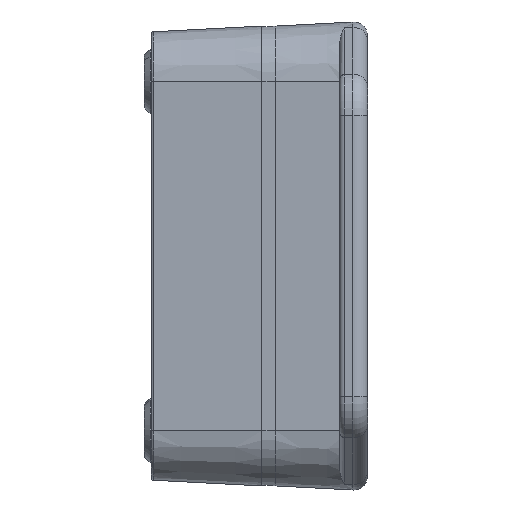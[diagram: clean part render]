
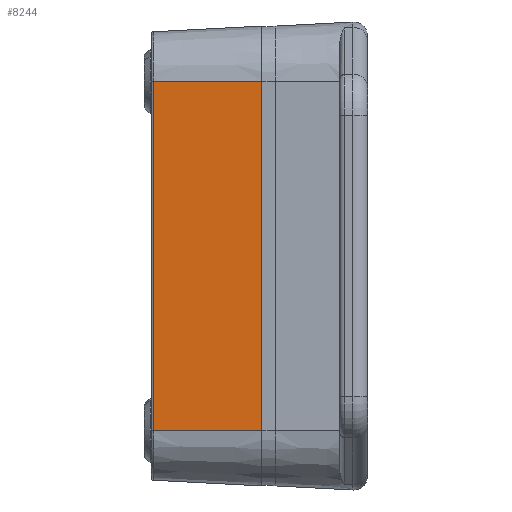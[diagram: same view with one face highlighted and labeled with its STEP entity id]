
A CAD part, left-side view. The second image highlights one B-rep face of the part: STEP entity #8244.
In plain terms, the highlighted planar face has unit normal (-0.999, 0.052, 0).
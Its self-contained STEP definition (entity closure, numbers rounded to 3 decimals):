
#350 = ORIENTED_EDGE ( 'NONE', *, *, #8868, .T. ) ;
#482 = DIRECTION ( 'NONE',  ( 0., 0., 1. ) ) ;
#606 = CARTESIAN_POINT ( 'NONE',  ( -37.5, 0., 19. ) ) ;
#862 = VECTOR ( 'NONE', #482, 1000. ) ;
#1655 = EDGE_CURVE ( 'NONE', #7345, #4840, #2425, .T. ) ;
#2166 = ORIENTED_EDGE ( 'NONE', *, *, #1655, .T. ) ;
#2425 = LINE ( 'NONE', #5408, #4910 ) ;
#2447 = AXIS2_PLACEMENT_3D ( 'NONE', #7250, #11378, #8340 ) ;
#2613 = FACE_OUTER_BOUND ( 'NONE', #10519, .T. ) ;
#2861 = CARTESIAN_POINT ( 'NONE',  ( -37.5, 0., 19. ) ) ;
#2905 = EDGE_CURVE ( 'NONE', #7345, #7436, #14019, .T. ) ;
#3737 = CARTESIAN_POINT ( 'NONE',  ( -37.5, 0., 19. ) ) ;
#3910 = PLANE ( 'NONE',  #2447 ) ;
#4840 = VERTEX_POINT ( 'NONE', #12707 ) ;
#4860 = CARTESIAN_POINT ( 'NONE',  ( -37.5, 0., -19. ) ) ;
#4910 = VECTOR ( 'NONE', #11261, 1000. ) ;
#4953 = ORIENTED_EDGE ( 'NONE', *, *, #2905, .F. ) ;
#5348 = DIRECTION ( 'NONE',  ( -0.052, -0.999, 0. ) ) ;
#5408 = CARTESIAN_POINT ( 'NONE',  ( -36.884, 11.763, 19. ) ) ;
#5921 = LINE ( 'NONE', #3737, #862 ) ;
#7186 = ORIENTED_EDGE ( 'NONE', *, *, #9271, .T. ) ;
#7250 = CARTESIAN_POINT ( 'NONE',  ( -37.5, 0., 19. ) ) ;
#7345 = VERTEX_POINT ( 'NONE', #8284 ) ;
#7436 = VERTEX_POINT ( 'NONE', #606 ) ;
#8244 = ADVANCED_FACE ( 'NONE', ( #2613 ), #3910, .T. ) ;
#8284 = CARTESIAN_POINT ( 'NONE',  ( -36.884, 11.763, 19. ) ) ;
#8340 = DIRECTION ( 'NONE',  ( -0.052, -0.999, 0. ) ) ;
#8480 = VECTOR ( 'NONE', #5348, 1000. ) ;
#8663 = LINE ( 'NONE', #9615, #8480 ) ;
#8868 = EDGE_CURVE ( 'NONE', #4840, #14014, #8663, .T. ) ;
#9271 = EDGE_CURVE ( 'NONE', #14014, #7436, #5921, .T. ) ;
#9535 = DIRECTION ( 'NONE',  ( -0.052, -0.999, 0. ) ) ;
#9615 = CARTESIAN_POINT ( 'NONE',  ( -37.5, 0., -19. ) ) ;
#9914 = VECTOR ( 'NONE', #9535, 1000. ) ;
#10519 = EDGE_LOOP ( 'NONE', ( #4953, #2166, #350, #7186 ) ) ;
#11261 = DIRECTION ( 'NONE',  ( 0., 0., -1. ) ) ;
#11378 = DIRECTION ( 'NONE',  ( -0.999, 0.052, 0. ) ) ;
#12707 = CARTESIAN_POINT ( 'NONE',  ( -36.884, 11.763, -19. ) ) ;
#14014 = VERTEX_POINT ( 'NONE', #4860 ) ;
#14019 = LINE ( 'NONE', #2861, #9914 ) ;
